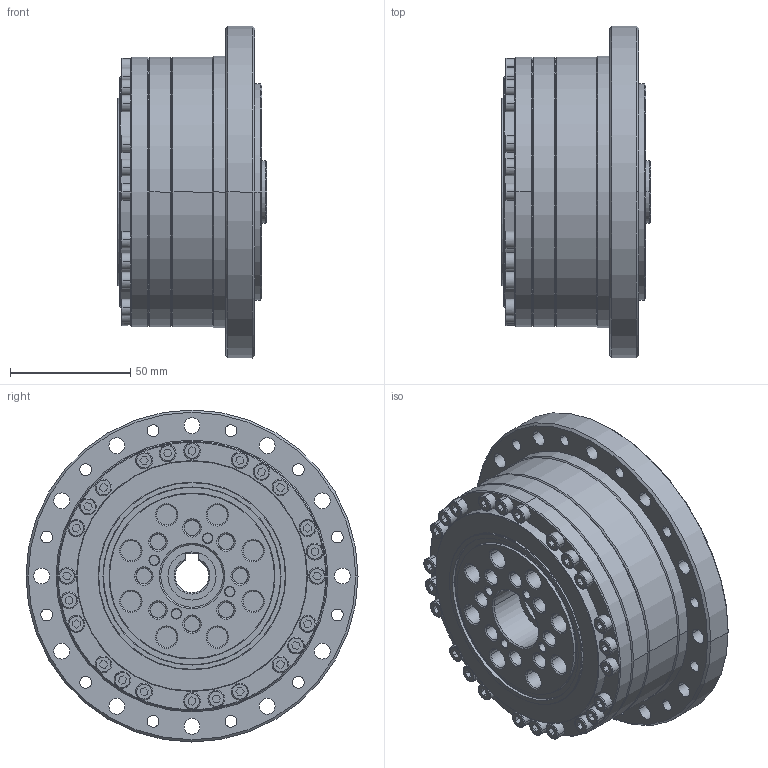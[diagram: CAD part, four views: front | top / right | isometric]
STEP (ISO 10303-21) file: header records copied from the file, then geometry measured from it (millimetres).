
FILE_DESCRIPTION(('STEP AP214'),'1');
FILE_NAME('cctmp_3E15C467-471F-47C6-B3C9-9A15ECB65D0D_2025_03_06_11_18_38_0617_90288..stp','2025-03-06T10:18:39',('HIWIN GmbH'),('CADClick - www.CADClick.com'),'Spatial InterOp 3D',' ','unknown authorization');
FILE_SCHEMA(('AUTOMOTIVE_DESIGN'));
Length unit declared in the file: millimetre
Products named in the file (2): DSC-32-XX-PO_FILE; 2025_03_06_11_18_38_0600
Assembly tree (1 placements, depth 2):
  DSC-32-XX-PO_FILE
    2025_03_06_11_18_38_0600
Bounding box: 62 x 138 x 138 mm (x, y, z)
Volume: 570529 mm3; surface area: 74079.3 mm2
Topology: 1 solids, 1 shells, 593 faces, 1388 edges, 886 vertices
Faces by surface type: plane 247, cylinder 195, cone 97, bspline 54
Entity records: 22942 total; most frequent: CARTESIAN_POINT 4317, DIRECTION 2982, ORIENTED_EDGE 2776, EDGE_CURVE 1388, AXIS2_PLACEMENT_3D 1119, VERTEX_POINT 886, LINE 744, VECTOR 744
